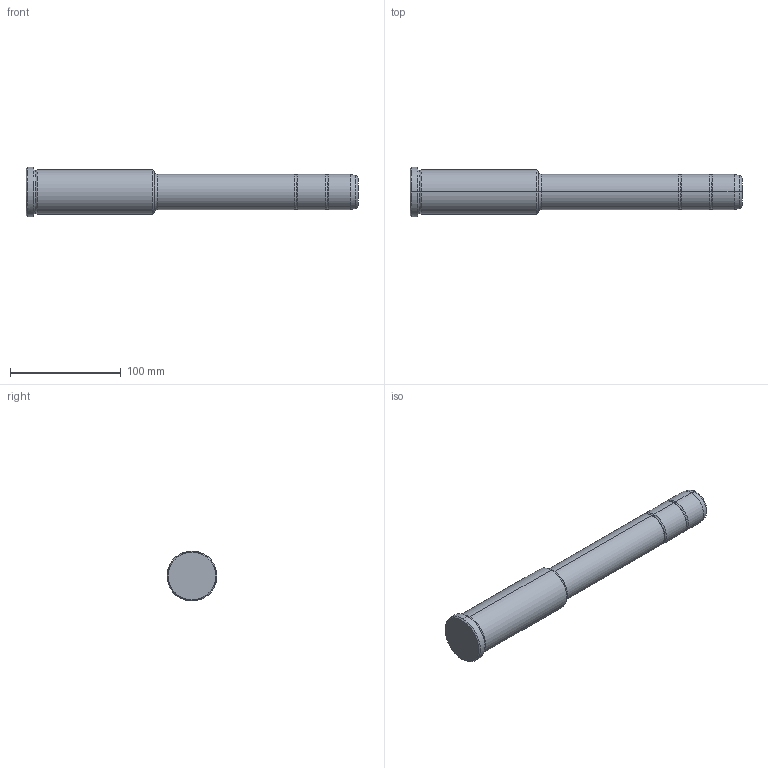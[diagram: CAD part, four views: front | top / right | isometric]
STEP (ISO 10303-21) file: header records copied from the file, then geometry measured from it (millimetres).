
FILE_DESCRIPTION(('CATIA V5 STEP Exchange'),'2;1');
FILE_NAME('C:\Users\Utente\Desktop\IO LAVORO\3D X SITO CF\X SITO\PLASTICA\351\351-32X116X300.stp','2021-09-15T11:36:27+00:00',('none'),('none'),'CATIA Version 5 Release 20 GA (IN-10)','CATIA V5 STEP AP203','none');
FILE_SCHEMA(('CONFIG_CONTROL_DESIGN'));
Length unit declared in the file: millimetre
Products named in the file (1): 351-32X116X300
Bounding box: 300 x 45 x 45 mm (x, y, z)
Volume: 294882.8 mm3; surface area: 35936.2 mm2
Topology: 1 solids, 1 shells, 36 faces, 102 edges, 70 vertices
Faces by surface type: torus 16, cylinder 10, cone 6, plane 4
Entity records: 1292 total; most frequent: CARTESIAN_POINT 321, ORIENTED_EDGE 204, DIRECTION 166, AXIS2_PLACEMENT_3D 115, EDGE_CURVE 102, CIRCLE 78, VERTEX_POINT 70, EDGE_LOOP 38
